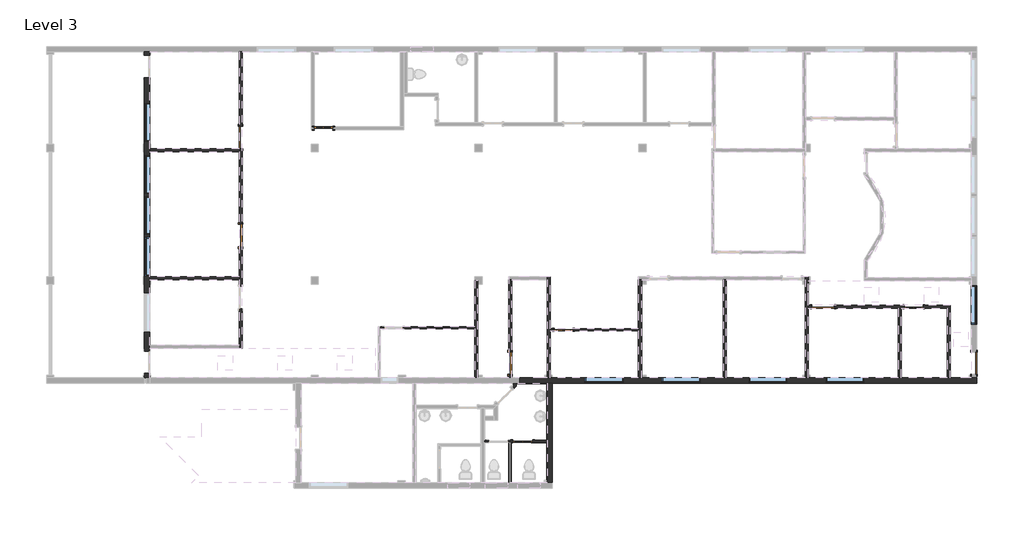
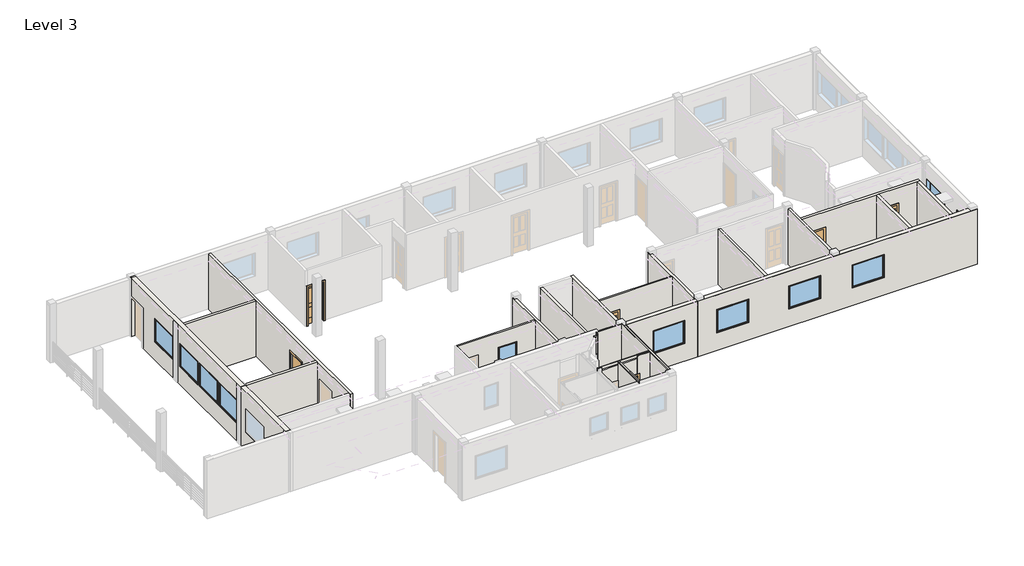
# One storey, part 2 of 4: 28 walls, 10 windows, 9 doors.
"""IFC4 building model written with IfcOpenShell, lengths in millimetres."""

from ifc_helpers import new_model, si_unit, frame, origin, origin_with_axes, place, context, project, spatial, polyline, outline, extrude, faceted_brep, transform, mapped, element, save
from components import door_43f271b1, door_0f3f7c0c, door_dce19e30, door_bfc1a142, door_dc1c1a0d, door_ea126e43, door_317ed896, window_74e4fc61, window_a0bf6c86

model = new_model("IFC4")

# Units and contexts
model_context = context("Model", 3, world=origin())
ifc_project = project(units=[si_unit("LENGTHUNIT", "METRE", prefix="MILLI")], contexts=[model_context])

# Site, building, storey
site = spatial("IfcSite", under=ifc_project)
building = spatial("IfcBuilding", under=site)
storey = spatial("IfcBuildingStorey", under=building, Name="Level 3", Elevation=0.0)

# Doors
placement = place(None, origin())
door_shape = door_43f271b1(model_context)
element("IfcDoor", 1, ObjectType="Single-Flush : 36\" x 80\" - D1", at=placement, inside=storey, context=model_context, shape_type="MappedRepresentation", body=[
    mapped(door_shape, transform((1001.1062633, -569.5558613, 0.0), x_axis=(-0.9999999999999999, 0.0, 0.0), y_axis=(0.0, -0.9999999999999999, 0.0), z_axis=(0.0, 0.0, 1.0))),
])
element("IfcDoor", 2, ObjectType="Single-Flush : 36\" x 80\" - D1", at=placement, inside=storey, context=model_context, shape_type="MappedRepresentation", body=[
    mapped(door_shape, transform((-22828.8562367, 2343.5066387, 0.0), x_axis=(0.0, -1.0, 0.0), y_axis=(1.0, 0.0, 0.0), z_axis=(0.0, 0.0, 1.0))),
])
element("IfcDoor", 3, ObjectType="Single-Flush : 36\" x 80\" - D1", at=placement, inside=storey, context=model_context, shape_type="MappedRepresentation", body=[
    mapped(door_shape, transform((-11806.8437367, -2880.9558613, 0.0), x_axis=(0.0, -1.0, 0.0), y_axis=(1.0, 0.0, 0.0), z_axis=(0.0, 0.0, 1.0))),
])
door_2_shape = door_0f3f7c0c(model_context)
element("IfcDoor", 4, ObjectType="Single-Flush : 36\" x 80\" - D1", at=placement, inside=storey, context=model_context, shape_type="MappedRepresentation", body=[
    mapped(door_2_shape, transform((-22828.8562367, 6356.7066387, 0.0), x_axis=(0.0, -1.0, 0.0), y_axis=(1.0, 0.0, 0.0), z_axis=(0.0, 0.0, 1.0))),
])
door_3_shape = door_dce19e30(model_context)
element("IfcDoor", 5, ObjectType="Single-Flush : 36\" x 80\" - D1", at=placement, inside=storey, context=model_context, shape_type="MappedRepresentation", body=[
    mapped(door_3_shape, transform((7179.6562633, -2880.9558613, 0.0), x_axis=(0.0, -0.9999999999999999, 0.0), y_axis=(0.9999999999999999, 0.0, 0.0), z_axis=(0.0, 0.0, 1.0))),
])
door_4_shape = door_bfc1a142(model_context)
element("IfcDoor", 6, ObjectType="Single-Glass 3 : 30\" x 80\" - D3", at=placement, inside=storey, context=model_context, shape_type="MappedRepresentation", body=[
    mapped(door_4_shape, transform((-19442.7187367, 6729.7691387, 0.0), x_axis=(-1.0, 0.0, 0.0), y_axis=(0.0, -1.0, 0.0), z_axis=(0.0, 0.0, 1.0))),
])
door_5_shape = door_dc1c1a0d(model_context)
element("IfcDoor", 7, ObjectType="Single-Glass 3 : 30\" x 80\" - D3", at=placement, inside=storey, context=model_context, shape_type="MappedRepresentation", body=[
    mapped(door_5_shape, transform((4707.9187633, -569.5558613, 0.0), x_axis=(-0.9999999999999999, 0.0, 0.0), y_axis=(0.0, -0.9999999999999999, 0.0), z_axis=(0.0, 0.0, 1.0))),
])
door_6_shape = door_ea126e43(model_context)
element("IfcDoor", 8, ObjectType="Single-Glass 3 : 30\" x 80\" - D3", at=placement, inside=storey, context=model_context, shape_type="MappedRepresentation", body=[
    mapped(door_6_shape, transform((-9616.0937367, -1515.7058613, 0.0), x_axis=(-1.0, 0.0, 0.0), y_axis=(0.0, -1.0, 0.0), z_axis=(0.0, 0.0, 1.0))),
])
door_7_shape = door_317ed896(model_context)
element("IfcDoor", 9, ObjectType="Single-Glass 3 : 32\" x 80\" - D2", at=placement, inside=storey, context=model_context, shape_type="MappedRepresentation", body=[
    mapped(door_7_shape, transform((-11286.1437367, -6071.8308613, 0.0), x_axis=(-1.0, 0.0, 0.0), y_axis=(0.0, -1.0, 0.0), z_axis=(0.0, 0.0, 1.0))),
])

# Walls
element("IfcWall", 10, ObjectType="0.5\" wall tiles-4\" x 6\"", at=placement, inside=storey, context=model_context, shape_type="Brep", body=[
    faceted_brep([(-11870.4677532, -6032.1433613, 2032.0), (-11870.4677532, -6032.1433613, 0.0), (-11692.4197202, -6032.1433613, 0.0), (-11692.4197202, -6032.1433613, 2032.0), (-10879.6197202, -6032.1433613, 2032.0), (-10879.6197202, -6032.1433613, 0.0), (-10290.7812367, -6032.1433613, 0.0), (-10290.7812367, -6032.1433613, 2895.6), (-10290.7812367, -6032.1433613, 3048.0), (-12860.9437367, -6032.1433613, 3048.0), (-12860.9437367, -6032.1433613, 2895.6), (-12860.9437367, -6032.1433613, 0.0), (-12683.2677532, -6032.1433613, 0.0), (-12683.2677532, -6032.1433613, 2032.0), (-11692.4197202, -6019.4433613, 0.0), (-11870.4677532, -6019.4433613, 0.0), (-11870.4677532, -6019.4433613, 2032.0), (-12683.2677532, -6019.4433613, 2032.0), (-12683.2677532, -6019.4433613, 0.0), (-12848.2437367, -6019.4433613, 0.0), (-12860.9437367, -6019.4433613, 0.0), (-12860.9437367, -6019.4433613, 3048.0), (-12848.2437367, -6019.4433613, 3048.0), (-10303.4812367, -6019.4433613, 3048.0), (-10290.7812367, -6019.4433613, 3048.0), (-10290.7812367, -6019.4433613, 0.0), (-10303.4812367, -6019.4433613, 0.0), (-10879.6197202, -6019.4433613, 0.0), (-10879.6197202, -6019.4433613, 2032.0), (-11692.4197202, -6019.4433613, 2032.0)], [[[0, 1, 2, 3, 4, 5, 6, 7, 8, 9, 10, 11, 12, 13]], [[14, 15, 16, 17, 18, 19, 20, 21, 22, 23, 24, 25, 26, 27, 28, 29]], [[2, 1, 15, 14]], [[27, 26, 25, 6, 5]], [[12, 11, 20, 19, 18]], [[9, 8, 24, 23, 22, 21]], [[11, 10, 9, 21, 20]], [[8, 7, 6, 25, 24]], [[3, 2, 14, 29]], [[4, 3, 29, 28]], [[5, 4, 28, 27]], [[16, 15, 1, 0]], [[17, 16, 0, 13]], [[18, 17, 13, 12]]]),
])
element("IfcWall", 11, ObjectType="0.5\" wall tiles-4\" x 6\"", at=placement, inside=storey, context=model_context, shape_type="Brep", body=[
    faceted_brep([(-10290.7812367, -6019.4433613, 0.0), (-10290.7812367, -3696.9308613, 0.0), (-10290.7812367, -3696.9308613, 3048.0), (-10290.7812367, -6019.4433613, 3048.0), (-10303.4812367, -6019.4433613, 0.0), (-10303.4812367, -6019.4433613, 3048.0), (-10303.4812367, -3709.6308613, 3048.0), (-10303.4812367, -3696.9308613, 3048.0), (-10303.4812367, -3696.9308613, 0.0), (-10303.4812367, -3709.6308613, 0.0)], [[[0, 1, 2, 3]], [[4, 5, 6, 7, 8, 9]], [[1, 0, 4, 9, 8]], [[3, 2, 7, 6, 5]], [[2, 1, 8, 7]], [[0, 3, 5, 4]]]),
])
element("IfcWall", 12, ObjectType="0.5\" wall tiles-4\" x 6\"", at=placement, inside=storey, context=model_context, shape_type="Brep", body=[
    faceted_brep([(-10303.4812367, -3696.9308613, 0.0), (-11560.7812367, -3696.9308613, 0.0), (-11560.7812367, -3696.9308613, 3048.0), (-10303.4812367, -3696.9308613, 3048.0), (-10303.4812367, -3709.6308613, 0.0), (-10303.4812367, -3709.6308613, 3048.0), (-11548.0812367, -3709.6308613, 3048.0), (-11560.7812367, -3709.6308613, 3048.0), (-11560.7812367, -3709.6308613, 0.0), (-11548.0812367, -3709.6308613, 0.0)], [[[0, 1, 2, 3]], [[4, 5, 6, 7, 8, 9]], [[1, 0, 4, 9, 8]], [[3, 2, 7, 6, 5]], [[2, 1, 8, 7]], [[0, 3, 5, 4]]]),
])
element("IfcWall", 13, ObjectType="0.5\" wall tiles-4\" x 6\"", at=placement, inside=storey, context=model_context, shape_type="Brep", body=[
    faceted_brep([(-11560.7812367, -3709.6308613, 0.0), (-11560.7812367, -3811.4758585, 0.0), (-11560.7812367, -3829.4363708, 0.0), (-11560.7812367, -3829.4363708, 3048.0), (-11560.7812367, -3811.4758585, 3048.0), (-11560.7812367, -3709.6308613, 3048.0), (-11548.0812367, -3709.6308613, 0.0), (-11548.0812367, -3709.6308613, 3048.0), (-11548.0812367, -3816.7363708, 3048.0), (-11548.0812367, -3816.7363708, 0.0)], [[[0, 1, 2, 3, 4, 5]], [[6, 7, 8, 9]], [[2, 1, 0, 6, 9]], [[5, 4, 3, 8, 7]], [[3, 2, 9, 8]], [[0, 5, 7, 6]]]),
])
element("IfcWall", 14, ObjectType="0.5\" wall tiles-4\" x 6\"", at=placement, inside=storey, context=model_context, shape_type="SweptSolid", body=[
    extrude(outline(polyline([(-11709.4708503, -3960.1654721), (-11560.7812367, -3811.4758585), (-11560.7812367, -3829.4363708), (-11700.4905942, -3969.1457283), (-11709.4708503, -3960.1654721)])), origin_with_axes(), (0.0, 0.0, 1.0), 3048.0),
])
element("IfcWall", 15, ObjectType="0.5\" wall tiles-4\" x 6\"", at=placement, inside=storey, context=model_context, shape_type="SweptSolid", body=[
    extrude(outline(polyline([(-11848.1187367, -6113.1058613), (-11848.1187367, -7762.5183613), (-11860.8187367, -7762.5183613), (-11860.8187367, -6113.1058613), (-11848.1187367, -6113.1058613)])), origin_with_axes(), (0.0, 0.0, 1.0), 3048.0),
])
element("IfcWall", 16, ObjectType="0.5\" wall tiles-4\" x 6\"", at=placement, inside=storey, context=model_context, shape_type="Brep", body=[
    faceted_brep([(-11768.7437367, -6113.1058613, 0.0), (-11768.7437367, -7775.2183613, 0.0), (-11768.7437367, -7775.2183613, 3048.0), (-11768.7437367, -6113.1058613, 3048.0), (-11756.0437367, -6113.1058613, 0.0), (-11756.0437367, -6113.1058613, 3048.0), (-11756.0437367, -7762.5183613, 3048.0), (-11756.0437367, -7775.2183613, 3048.0), (-11756.0437367, -7775.2183613, 0.0), (-11756.0437367, -7762.5183613, 0.0)], [[[0, 1, 2, 3]], [[4, 5, 6, 7, 8, 9]], [[1, 0, 4, 9, 8]], [[3, 2, 7, 6, 5]], [[0, 3, 5, 4]], [[2, 1, 8, 7]]]),
])
element("IfcWall", 17, ObjectType="0.5\" wall tiles-4\" x 6\"", at=placement, inside=storey, context=model_context, shape_type="Brep", body=[
    faceted_brep([(-10290.7812367, -7664.0933613, 0.0), (-10290.7812367, -6111.5183613, 0.0), (-10290.7812367, -6111.5183613, 3048.0), (-10290.7812367, -7664.0933613, 3048.0), (-10303.4812367, -7664.0933613, 0.0), (-10303.4812367, -7664.0933613, 3048.0), (-10303.4812367, -6124.2183613, 3048.0), (-10303.4812367, -6111.5183613, 3048.0), (-10303.4812367, -6111.5183613, 0.0), (-10303.4812367, -6124.2183613, 0.0)], [[[0, 1, 2, 3]], [[4, 5, 6, 7, 8, 9]], [[1, 0, 4, 9, 8]], [[3, 2, 7, 6, 5]], [[2, 1, 8, 7]], [[0, 3, 5, 4]]]),
])
element("IfcWall", 18, ObjectType="0.5\" wall tiles-4\" x 6\"", at=placement, inside=storey, context=model_context, shape_type="SweptSolid", body=[
    extrude(outline(polyline([(-10929.1337127, -6111.5183613), (-10303.4812367, -6111.5183613), (-10303.4812367, -6124.2183613), (-10929.1337127, -6124.2183613), (-10929.1337127, -6111.5183613)])), origin_with_axes(), (0.0, 0.0, 1.0), 3048.0),
])
element("IfcWall", 19, ObjectType="Generic - 8\" Masonry existing", at=placement, inside=storey, context=model_context, shape_type="Brep", body=[
    faceted_brep([(-26543.6062367, -3477.8558613, 0.0), (-26686.4812367, -3477.8558613, 0.0), (-26762.6812367, -3477.8558613, 0.0), (-26762.6812367, -3296.616278, 0.0), (-26543.6062367, -3296.616278, 0.0), (-26762.6812367, 9857.1441387, 0.0), (-26543.6062367, 9857.1441387, 0.0), (-26543.6062367, 9717.4441387, 0.0), (-26762.6812367, 9717.4441387, 0.0), (-26543.6062367, -2382.216278, 0.0), (-26762.6812367, -2382.216278, 0.0), (-26762.6812367, 8803.0441387, 0.0), (-26543.6062367, 8803.0441387, 0.0), (-26543.6062367, 5899.5066387, 0.0), (-26543.6062367, 5775.6816387, 0.0), (-26543.6062367, 667.1066387, 0.0), (-26543.6062367, 543.2816387, 0.0), (-26543.6062367, -2145.4141947, 0.0), (-26543.6062367, -2269.2391947, 0.0), (-26762.6812367, 9857.1441387, 3048.0), (-26762.6812367, -3477.8558613, 3048.0), (-26686.4812367, -3477.8558613, 3048.0), (-26543.6062367, -3477.8558613, 3048.0), (-26543.6062367, 9857.1441387, 3048.0), (-26762.6812367, 9717.4441387, 2032.0), (-26762.6812367, 8803.0441387, 2032.0), (-26762.6812367, -2382.216278, 2032.0), (-26762.6812367, -3296.616278, 2032.0), (-26762.6812367, -23.4558613, 914.4), (-26762.6812367, -23.4558613, 2133.6), (-26762.6812367, -1598.2558613, 2133.6), (-26762.6812367, -1598.2558613, 914.4), (-26762.6812367, 2265.7191387, 2133.6), (-26762.6812367, 690.9191387, 2133.6), (-26762.6812367, 690.9191387, 914.4), (-26762.6812367, 2265.7191387, 914.4), (-26762.6812367, 3951.6441387, 2133.6), (-26762.6812367, 2376.8441387, 2133.6), (-26762.6812367, 2376.8441387, 914.4), (-26762.6812367, 3951.6441387, 914.4), (-26762.6812367, 5628.0441387, 2133.6), (-26762.6812367, 4053.2441387, 2133.6), (-26762.6812367, 4053.2441387, 914.4), (-26762.6812367, 5628.0441387, 914.4), (-26762.6812367, 7761.6441387, 2133.6), (-26762.6812367, 6186.8441387, 2133.6), (-26762.6812367, 6186.8441387, 914.4), (-26762.6812367, 7761.6441387, 914.4), (-26543.6062367, -3296.616278, 2032.0), (-26543.6062367, -2382.216278, 2032.0), (-26543.6062367, 8803.0441387, 2032.0), (-26543.6062367, 9717.4441387, 2032.0), (-26543.6062367, -23.4558613, 2133.6), (-26543.6062367, -23.4558613, 914.4), (-26543.6062367, -1598.2558613, 914.4), (-26543.6062367, -1598.2558613, 2133.6), (-26543.6062367, 2265.7191387, 2133.6), (-26543.6062367, 2265.7191387, 914.4), (-26543.6062367, 690.9191387, 914.4), (-26543.6062367, 690.9191387, 2133.6), (-26543.6062367, 3951.6441387, 2133.6), (-26543.6062367, 3951.6441387, 914.4), (-26543.6062367, 2376.8441387, 914.4), (-26543.6062367, 2376.8441387, 2133.6), (-26543.6062367, 5628.0441387, 2133.6), (-26543.6062367, 5628.0441387, 914.4), (-26543.6062367, 4053.2441387, 914.4), (-26543.6062367, 4053.2441387, 2133.6), (-26543.6062367, 7761.6441387, 2133.6), (-26543.6062367, 7761.6441387, 914.4), (-26543.6062367, 6186.8441387, 914.4), (-26543.6062367, 6186.8441387, 2133.6)], [[[0, 1, 2, 3, 4]], [[5, 6, 7, 8]], [[9, 10, 11, 12, 13, 14, 15, 16, 17, 18]], [[19, 20, 21, 22, 23]], [[20, 19, 5, 8, 24, 25, 11, 10, 26, 27, 3, 2], [28, 29, 30, 31], [32, 33, 34, 35], [36, 37, 38, 39], [40, 41, 42, 43], [44, 45, 46, 47]], [[23, 22, 0, 4, 48, 49, 9, 18, 17, 16, 15, 14, 13, 12, 50, 51, 7, 6], [52, 53, 54, 55], [56, 57, 58, 59], [60, 61, 62, 63], [64, 65, 66, 67], [68, 69, 70, 71]], [[20, 2, 1, 0, 22, 21]], [[5, 19, 23, 6]], [[48, 4, 3, 27]], [[49, 48, 27, 26]], [[9, 49, 26, 10]], [[24, 8, 7, 51]], [[25, 24, 51, 50]], [[11, 25, 50, 12]], [[52, 29, 28, 53]], [[53, 28, 31, 54]], [[30, 55, 54, 31]], [[29, 52, 55, 30]], [[57, 56, 32, 35]], [[58, 57, 35, 34]], [[59, 58, 34, 33]], [[56, 59, 33, 32]], [[61, 60, 36, 39]], [[62, 61, 39, 38]], [[63, 62, 38, 37]], [[60, 63, 37, 36]], [[65, 64, 40, 43]], [[66, 65, 43, 42]], [[67, 66, 42, 41]], [[64, 67, 41, 40]], [[69, 68, 44, 47]], [[70, 69, 47, 46]], [[71, 70, 46, 45]], [[68, 71, 45, 44]]]),
])
element("IfcWall", 20, ObjectType="Generic - 8\" Masonry existing", at=placement, inside=storey, context=model_context, shape_type="Brep", body=[
    faceted_brep([(-11425.8437367, -3696.9308613, 0.0), (-11425.8437367, -3696.9308613, 2895.6), (-11425.8437367, -3684.2308613, 2895.6), (-11425.8437367, -3477.8558613, 2895.6), (-11425.8437367, -3477.8558613, 0.0), (7289.1937633, -3696.9308613, 0.0), (-10071.7062367, -3696.9308613, 0.0), (-10290.7812367, -3696.9308613, 0.0), (-10281.2562367, -3477.8558613, 0.0), (-10157.4312367, -3477.8558613, 0.0), (-6552.2187367, -3477.8558613, 0.0), (-6428.3937367, -3477.8558613, 0.0), (-3080.3562367, -3477.8558613, 0.0), (-2956.5312367, -3477.8558613, 0.0), (259.7437633, -3477.8558613, 0.0), (383.5687633, -3477.8558613, 0.0), (4068.1562633, -3477.8558613, 0.0), (4191.9812633, -3477.8558613, 0.0), (6079.5187633, -3477.8558613, 0.0), (6203.3437633, -3477.8558613, 0.0), (7070.1187633, -3477.8558613, 0.0), (7289.1937633, -3477.8558613, 0.0), (7289.1937633, -3696.9308613, 2895.6), (7276.4937633, -3696.9308613, 2895.6), (-10071.7062367, -3696.9308613, 2895.6), (-10290.7812367, -3696.9308613, 2895.6), (-8746.1437367, -3696.9308613, 2133.6), (-7171.3437367, -3696.9308613, 2133.6), (-7171.3437367, -3696.9308613, 914.4), (-8746.1437367, -3696.9308613, 914.4), (-5596.5437367, -3696.9308613, 2133.6), (-4021.7437367, -3696.9308613, 2133.6), (-4021.7437367, -3696.9308613, 914.4), (-5596.5437367, -3696.9308613, 914.4), (1109.0562633, -3696.9308613, 2133.6), (2683.8562633, -3696.9308613, 2133.6), (2683.8562633, -3696.9308613, 914.4), (1109.0562633, -3696.9308613, 914.4), (-2040.5437367, -3696.9308613, 2133.6), (-465.7437367, -3696.9308613, 2133.6), (-465.7437367, -3696.9308613, 914.4), (-2040.5437367, -3696.9308613, 914.4), (-10281.2562367, -3477.8558613, 2895.6), (-10157.4312367, -3477.8558613, 2895.6), (-6552.2187367, -3477.8558613, 2895.6), (-6428.3937367, -3477.8558613, 2895.6), (-3080.3562367, -3477.8558613, 2895.6), (-2956.5312367, -3477.8558613, 2895.6), (259.7437633, -3477.8558613, 2895.6), (383.5687633, -3477.8558613, 2895.6), (4068.1562633, -3477.8558613, 2895.6), (4191.9812633, -3477.8558613, 2895.6), (6079.5187633, -3477.8558613, 2895.6), (6203.3437633, -3477.8558613, 2895.6), (7070.1187633, -3477.8558613, 2895.6), (7276.4937633, -3477.8558613, 2895.6), (7289.1937633, -3477.8558613, 2895.6), (-8746.1437367, -3477.8558613, 2133.6), (-8746.1437367, -3477.8558613, 914.4), (-7171.3437367, -3477.8558613, 914.4), (-7171.3437367, -3477.8558613, 2133.6), (-5596.5437367, -3477.8558613, 2133.6), (-5596.5437367, -3477.8558613, 914.4), (-4021.7437367, -3477.8558613, 914.4), (-4021.7437367, -3477.8558613, 2133.6), (1109.0562633, -3477.8558613, 2133.6), (1109.0562633, -3477.8558613, 914.4), (2683.8562633, -3477.8558613, 914.4), (2683.8562633, -3477.8558613, 2133.6), (-2040.5437367, -3477.8558613, 2133.6), (-2040.5437367, -3477.8558613, 914.4), (-465.7437367, -3477.8558613, 914.4), (-465.7437367, -3477.8558613, 2133.6), (7289.1937633, -3684.2308613, 2895.6), (7276.4937633, -3684.2308613, 2895.6), (-10084.4062367, -3684.2308613, 2895.6)], [[[0, 1, 2, 3, 4]], [[5, 6, 7, 0, 4, 8, 9, 10, 11, 12, 13, 14, 15, 16, 17, 18, 19, 20, 21]], [[0, 7, 6, 5, 22, 23, 24, 25, 1], [26, 27, 28, 29], [30, 31, 32, 33], [34, 35, 36, 37], [38, 39, 40, 41]], [[4, 3, 42, 43, 44, 45, 46, 47, 48, 49, 50, 51, 52, 53, 54, 55, 56, 21, 20, 19, 18, 17, 16, 15, 14, 13, 12, 11, 10, 9, 8], [57, 58, 59, 60], [61, 62, 63, 64], [65, 66, 67, 68], [69, 70, 71, 72]], [[22, 5, 21, 56, 73]], [[1, 25, 24, 23, 74, 75, 2]], [[73, 56, 55, 74]], [[23, 22, 73, 74]], [[74, 55, 54, 53, 52, 51, 50, 49, 48, 47, 46, 45, 44, 43, 42, 3, 2, 75]], [[58, 57, 26, 29]], [[59, 58, 29, 28]], [[60, 59, 28, 27]], [[57, 60, 27, 26]], [[62, 61, 30, 33]], [[63, 62, 33, 32]], [[64, 63, 32, 31]], [[61, 64, 31, 30]], [[66, 65, 34, 37]], [[67, 66, 37, 36]], [[68, 67, 36, 35]], [[65, 68, 35, 34]], [[70, 69, 38, 41]], [[71, 70, 41, 40]], [[72, 71, 40, 39]], [[69, 72, 39, 38]]]),
])
element("IfcWall", 21, ObjectType="Generic - 8\" Masonry existing", at=placement, inside=storey, context=model_context, shape_type="Brep", body=[
    faceted_brep([(-10290.7812367, -3696.9308613, 0.0), (-10290.7812367, -6032.1433613, 0.0), (-10290.7812367, -6111.5183613, 0.0), (-10290.7812367, -7775.2183613, 0.0), (-10290.7812367, -7775.2183613, 2895.6), (-10290.7812367, -6111.5183613, 2895.6), (-10290.7812367, -6032.1433613, 2895.6), (-10290.7812367, -3696.9308613, 2895.6), (-10071.7062367, -3696.9308613, 0.0), (-10071.7062367, -3696.9308613, 2895.6), (-10071.7062367, -7775.2183613, 2895.6), (-10071.7062367, -7775.2183613, 0.0), (-10084.4062367, -7775.2183613, 2895.6), (-10084.4062367, -3696.9308613, 2895.6)], [[[0, 1, 2, 3, 4, 5, 6, 7]], [[8, 9, 10, 11]], [[3, 2, 1, 0, 8, 11]], [[4, 3, 11, 10, 12]], [[0, 7, 13, 9, 8]], [[12, 10, 9, 13]], [[7, 6, 5, 4, 12, 13]]]),
])
element("IfcWall", 22, ObjectType="Interior - 3 1/8\" Partition (1-hr)", at=placement, inside=storey, context=model_context, shape_type="SweptSolid", body=[
    extrude(outline(polyline([(0.0, -10157.4312367), (0.0, -9996.9697202), (2032.0, -9996.9697202), (2032.0, -9234.9697202), (0.0, -9234.9697202), (0.0, -6552.2187367), (2895.6, -6552.2187367), (2895.6, -10157.4312367), (0.0, -10157.4312367)])), frame((0.0, -1555.3933613, 0.0), z_axis=(0.0, 1.0, 0.0), x_axis=(0.0, 0.0, 1.0)), (0.0, 0.0, 1.0), 79.375),
])
element("IfcWall", 23, ObjectType="Interior - 3 1/8\" Partition (1-hr)", at=placement, inside=storey, context=model_context, shape_type="SweptSolid", body=[
    extrude(outline(polyline([(0.0, -17121.7937367), (0.0, -16948.6322202), (2032.0, -16948.6322202), (2032.0, -16186.6322202), (0.0, -16186.6322202), (0.0, -13257.8187367), (2895.6, -13257.8187367), (2895.6, -17121.7937367), (0.0, -17121.7937367)]), holes=[polyline([(2133.6, -15094.5562367), (2133.6, -14180.1562367), (914.4, -14180.1562367), (914.4, -15094.5562367), (2133.6, -15094.5562367)])]), frame((0.0, -1463.3183613, 0.0), z_axis=(0.0, 1.0, 0.0), x_axis=(0.0, 0.0, 1.0)), (0.0, 0.0, 1.0), 79.375),
])
element("IfcWall", 24, ObjectType="Interior - 3 1/8\" Partition (1-hr)", at=placement, inside=storey, context=model_context, shape_type="Brep", body=[
    faceted_brep([(-11870.4677532, -6111.5183613, 2032.0), (-11870.4677532, -6111.5183613, 0.0), (-11848.1187367, -6111.5183613, 0.0), (-11768.7437367, -6111.5183613, 0.0), (-11692.4197202, -6111.5183613, 0.0), (-11692.4197202, -6111.5183613, 2032.0), (-10879.6197202, -6111.5183613, 2032.0), (-10879.6197202, -6111.5183613, 0.0), (-10290.7812367, -6111.5183613, 0.0), (-10290.7812367, -6111.5183613, 2895.6), (-11768.7437367, -6111.5183613, 2895.6), (-11848.1187367, -6111.5183613, 2895.6), (-12860.9437367, -6111.5183613, 2895.6), (-12860.9437367, -6111.5183613, 0.0), (-12683.2677532, -6111.5183613, 0.0), (-12683.2677532, -6111.5183613, 2032.0), (-11692.4197202, -6032.1433613, 0.0), (-11870.4677532, -6032.1433613, 0.0), (-11870.4677532, -6032.1433613, 2032.0), (-12683.2677532, -6032.1433613, 2032.0), (-12683.2677532, -6032.1433613, 0.0), (-12860.9437367, -6032.1433613, 0.0), (-12860.9437367, -6032.1433613, 2895.6), (-10290.7812367, -6032.1433613, 2895.6), (-10290.7812367, -6032.1433613, 0.0), (-10879.6197202, -6032.1433613, 0.0), (-10879.6197202, -6032.1433613, 2032.0), (-11692.4197202, -6032.1433613, 2032.0)], [[[0, 1, 2, 3, 4, 5, 6, 7, 8, 9, 10, 11, 12, 13, 14, 15]], [[16, 17, 18, 19, 20, 21, 22, 23, 24, 25, 26, 27]], [[4, 3, 2, 1, 17, 16]], [[25, 24, 8, 7]], [[14, 13, 21, 20]], [[12, 11, 10, 9, 23, 22]], [[9, 8, 24, 23]], [[13, 12, 22, 21]], [[5, 4, 16, 27]], [[6, 5, 27, 26]], [[7, 6, 26, 25]], [[18, 17, 1, 0]], [[19, 18, 0, 15]], [[20, 19, 15, 14]]]),
])
element("IfcWall", 25, ObjectType="Interior - 5 1/2\" Partition (1-hr)", at=placement, inside=storey, context=model_context, shape_type="Brep", body=[
    faceted_brep([(-22890.7687367, 262.2941387, 0.0), (-22890.7687367, 543.2816387, 0.0), (-22890.7687367, 667.1066387, 0.0), (-22890.7687367, 1886.3066387, 0.0), (-22766.9437367, 1886.3066387, 0.0), (-22766.9437367, 262.2941387, 0.0), (-22890.7687367, 6813.9066387, 0.0), (-22890.7687367, 9857.1441387, 0.0), (-22766.9437367, 9857.1441387, 0.0), (-22766.9437367, 6813.9066387, 0.0), (-22766.9437367, -652.1058613, 0.0), (-22766.9437367, -2269.2391947, 0.0), (-22890.7687367, -2269.2391947, 0.0), (-22890.7687367, -2145.4141947, 0.0), (-22890.7687367, -652.1058613, 0.0), (-22890.7687367, 2800.7066387, 0.0), (-22890.7687367, 5775.6816387, 0.0), (-22890.7687367, 5899.5066387, 0.0), (-22766.9437367, 5899.5066387, 0.0), (-22766.9437367, 2800.7066387, 0.0), (-22890.7687367, 9857.1441387, 2895.6), (-22890.7687367, 5899.5066387, 2895.6), (-22890.7687367, 5775.6816387, 2895.6), (-22890.7687367, 667.1066387, 2895.6), (-22890.7687367, 543.2816387, 2895.6), (-22890.7687367, -2145.4141947, 2895.6), (-22890.7687367, -2269.2391947, 2895.6), (-22766.9437367, -2269.2391947, 2895.6), (-22766.9437367, 9857.1441387, 2895.6), (-22890.7687367, 1886.3066387, 2032.0), (-22890.7687367, 262.2941387, 2032.0), (-22890.7687367, -652.1058613, 2032.0), (-22890.7687367, 6813.9066387, 2032.0), (-22890.7687367, 5899.5066387, 2032.0), (-22890.7687367, 2800.7066387, 2032.0), (-22766.9437367, 1886.3066387, 2032.0), (-22766.9437367, 2800.7066387, 2032.0), (-22766.9437367, 5899.5066387, 2032.0), (-22766.9437367, 6813.9066387, 2032.0), (-22766.9437367, -652.1058613, 2032.0), (-22766.9437367, 262.2941387, 2032.0)], [[[0, 1, 2, 3, 4, 5]], [[6, 7, 8, 9]], [[10, 11, 12, 13, 14]], [[15, 16, 17, 18, 19]], [[20, 21, 22, 23, 24, 25, 26, 27, 28]], [[29, 3, 2, 1, 0, 30, 31, 14, 13, 12, 26, 25, 24, 23, 22, 21, 20, 7, 6, 32, 33, 17, 16, 15, 34]], [[5, 4, 35, 36, 19, 18, 37, 38, 9, 8, 28, 27, 11, 10, 39, 40]], [[7, 20, 28, 8]], [[26, 12, 11, 27]], [[37, 18, 17, 33]], [[38, 37, 33, 32]], [[9, 38, 32, 6]], [[30, 0, 5, 40]], [[31, 30, 40, 39]], [[14, 31, 39, 10]], [[35, 4, 3, 29]], [[36, 35, 29, 34]], [[19, 36, 34, 15]]]),
])
element("IfcWall", 26, ObjectType="Interior - 5 1/2\" Partition (1-hr)", at=placement, inside=storey, context=model_context, shape_type="Brep", body=[
    faceted_brep([(-26543.6062367, 5775.6816387, 0.0), (-22890.7687367, 5775.6816387, 0.0), (-22890.7687367, 5775.6816387, 2895.6), (-26543.6062367, 5775.6816387, 2895.6), (-26543.6062367, 5899.5066387, 0.0), (-26543.6062367, 5899.5066387, 2895.6), (-22890.7687367, 5899.5066387, 2895.6), (-22890.7687367, 5899.5066387, 2032.0), (-22890.7687367, 5899.5066387, 0.0)], [[[0, 1, 2, 3]], [[4, 5, 6, 7, 8]], [[1, 0, 4, 8]], [[3, 2, 6, 5]], [[2, 1, 8, 7, 6]], [[0, 3, 5, 4]]]),
])
element("IfcWall", 27, ObjectType="Interior - 5 1/2\" Partition (1-hr)", at=placement, inside=storey, context=model_context, shape_type="SweptSolid", body=[
    extrude(outline(polyline([(-22890.7687367, 543.2816387), (-26543.6062367, 543.2816387), (-26543.6062367, 667.1066387), (-22890.7687367, 667.1066387), (-22890.7687367, 543.2816387)])), origin_with_axes(), (0.0, 0.0, 1.0), 2895.6),
])
element("IfcWall", 28, ObjectType="Interior - 5 1/2\" Partition (1-hr)", at=placement, inside=storey, context=model_context, shape_type="Brep", body=[
    faceted_brep([(383.5687633, -3477.8558613, 0.0), (383.5687633, -631.4683613, 0.0), (383.5687633, -507.6433613, 0.0), (383.5687633, 667.1066387, 0.0), (383.5687633, 667.1066387, 2895.6), (383.5687633, -507.6433613, 2895.6), (383.5687633, -631.4683613, 2895.6), (383.5687633, -3477.8558613, 2895.6), (259.7437633, -3477.8558613, 0.0), (259.7437633, -3477.8558613, 2895.6), (259.7437633, 543.2816387, 2895.6), (259.7437633, 667.1066387, 2895.6), (259.7437633, 667.1066387, 0.0), (259.7437633, 543.2816387, 0.0)], [[[0, 1, 2, 3, 4, 5, 6, 7]], [[8, 9, 10, 11, 12, 13]], [[3, 2, 1, 0, 8, 13, 12]], [[7, 6, 5, 4, 11, 10, 9]], [[4, 3, 12, 11]], [[0, 7, 9, 8]]]),
])
element("IfcWall", 29, ObjectType="Interior - 5 1/2\" Partition (1-hr)", at=placement, inside=storey, context=model_context, shape_type="SweptSolid", body=[
    extrude(outline(polyline([(-3080.3562367, -3477.8558613), (-3080.3562367, 543.2816387), (-2956.5312367, 543.2816387), (-2956.5312367, -3477.8558613), (-3080.3562367, -3477.8558613)])), origin_with_axes(), (0.0, 0.0, 1.0), 2895.6),
])
element("IfcWall", 30, ObjectType="Interior - 5 1/2\" Partition (1-hr)", at=placement, inside=storey, context=model_context, shape_type="Brep", body=[
    faceted_brep([(-6428.3937367, -3477.8558613, 0.0), (-6428.3937367, 543.2816387, 0.0), (-6428.3937367, 543.2816387, 2895.6), (-6428.3937367, -3477.8558613, 2895.6), (-6552.2187367, -3477.8558613, 0.0), (-6552.2187367, -3477.8558613, 2895.6), (-6552.2187367, -1555.3933613, 2895.6), (-6552.2187367, -1476.0183613, 2895.6), (-6552.2187367, 543.2816387, 2895.6), (-6552.2187367, 543.2816387, 0.0), (-6552.2187367, -1476.0183613, 0.0), (-6552.2187367, -1555.3933613, 0.0)], [[[0, 1, 2, 3]], [[4, 5, 6, 7, 8, 9, 10, 11]], [[1, 0, 4, 11, 10, 9]], [[3, 2, 8, 7, 6, 5]], [[2, 1, 9, 8]], [[0, 3, 5, 4]]]),
])
element("IfcWall", 31, ObjectType="Interior - 5 1/2\" Partition (1-hr)", at=placement, inside=storey, context=model_context, shape_type="Brep", body=[
    faceted_brep([(-10281.2562367, 667.1066387, 0.0), (-10281.2562367, 543.2816387, 0.0), (-10281.2562367, -3477.8558613, 0.0), (-10281.2562367, -3477.8558613, 2895.6), (-10281.2562367, 543.2816387, 2895.6), (-10281.2562367, 667.1066387, 2895.6), (-10157.4312367, 667.1066387, 0.0), (-10157.4312367, 667.1066387, 2895.6), (-10157.4312367, -1476.0183613, 2895.6), (-10157.4312367, -1555.3933613, 2895.6), (-10157.4312367, -3477.8558613, 2895.6), (-10157.4312367, -3477.8558613, 0.0), (-10157.4312367, -1555.3933613, 0.0), (-10157.4312367, -1476.0183613, 0.0)], [[[0, 1, 2, 3, 4, 5]], [[6, 7, 8, 9, 10, 11, 12, 13]], [[2, 1, 0, 6, 13, 12, 11]], [[5, 4, 3, 10, 9, 8, 7]], [[0, 5, 7, 6]], [[3, 2, 11, 10]]]),
])
element("IfcWall", 32, ObjectType="Interior - 5 1/2\" Partition (1-hr)", at=placement, inside=storey, context=model_context, shape_type="Brep", body=[
    faceted_brep([(-13257.8187367, 497.2441387, 0.0), (-13257.8187367, -1383.9433613, 0.0), (-13257.8187367, -1463.3183613, 0.0), (-13257.8187367, -3477.8558613, 0.0), (-13257.8187367, -3477.8558613, 2895.6), (-13257.8187367, -1463.3183613, 2895.6), (-13257.8187367, -1383.9433613, 2895.6), (-13257.8187367, 497.2441387, 2895.6), (-13133.9937367, 497.2441387, 0.0), (-13133.9937367, 497.2441387, 2895.6), (-13133.9937367, -3477.8558613, 2895.6), (-13133.9937367, -3477.8558613, 0.0)], [[[0, 1, 2, 3, 4, 5, 6, 7]], [[8, 9, 10, 11]], [[3, 2, 1, 0, 8, 11]], [[7, 6, 5, 4, 10, 9]], [[0, 7, 9, 8]], [[4, 3, 11, 10]]]),
])
element("IfcWall", 33, ObjectType="Interior - 5 1/2\" Partition (1-hr)", at=placement, inside=storey, context=model_context, shape_type="Brep", body=[
    faceted_brep([(4327.0427798, -507.6433613, 2032.0), (4327.0427798, -507.6433613, 0.0), (1458.3062633, -507.6433613, 0.0), (1458.3062633, -507.6433613, 2032.0), (543.9062633, -507.6433613, 2032.0), (543.9062633, -507.6433613, 0.0), (383.5687633, -507.6433613, 0.0), (383.5687633, -507.6433613, 2895.6), (6203.3437633, -507.6433613, 2895.6), (6203.3437633, -507.6433613, 0.0), (5089.0427798, -507.6433613, 0.0), (5089.0427798, -507.6433613, 2032.0), (1458.3062633, -631.4683613, 0.0), (4068.1562633, -631.4683613, 0.0), (4191.9812633, -631.4683613, 0.0), (4327.0427798, -631.4683613, 0.0), (4327.0427798, -631.4683613, 2032.0), (5089.0427798, -631.4683613, 2032.0), (5089.0427798, -631.4683613, 0.0), (6079.5187633, -631.4683613, 0.0), (6203.3437633, -631.4683613, 0.0), (6203.3437633, -631.4683613, 2895.6), (6079.5187633, -631.4683613, 2895.6), (4191.9812633, -631.4683613, 2895.6), (4068.1562633, -631.4683613, 2895.6), (383.5687633, -631.4683613, 2895.6), (383.5687633, -631.4683613, 0.0), (543.9062633, -631.4683613, 0.0), (543.9062633, -631.4683613, 2032.0), (1458.3062633, -631.4683613, 2032.0)], [[[0, 1, 2, 3, 4, 5, 6, 7, 8, 9, 10, 11]], [[12, 13, 14, 15, 16, 17, 18, 19, 20, 21, 22, 23, 24, 25, 26, 27, 28, 29]], [[6, 5, 27, 26]], [[2, 1, 15, 14, 13, 12]], [[10, 9, 20, 19, 18]], [[8, 7, 25, 24, 23, 22, 21]], [[9, 8, 21, 20]], [[7, 6, 26, 25]], [[28, 27, 5, 4]], [[29, 28, 4, 3]], [[12, 29, 3, 2]], [[16, 15, 1, 0]], [[17, 16, 0, 11]], [[18, 17, 11, 10]]]),
])
element("IfcWall", 34, ObjectType="Interior - 5 1/2\" Partition (1-hr)", at=placement, inside=storey, context=model_context, shape_type="SweptSolid", body=[
    extrude(outline(polyline([(-3338.1558613, 2032.0), (-3338.1558613, 0.0), (-3477.8558613, 0.0), (-3477.8558613, 2895.6), (543.2816387, 2895.6), (543.2816387, 0.0), (-2423.7558613, 0.0), (-2423.7558613, 2032.0), (-3338.1558613, 2032.0)])), frame((-11868.7562367, 0.0, 0.0), z_axis=(1.0, 0.0, 0.0), x_axis=(0.0, 1.0, 0.0)), (0.0, 0.0, 1.0), 123.825),
])
element("IfcWall", 35, ObjectType="Interior - 5 1/2\" Partition (1-hr)", at=placement, inside=storey, context=model_context, shape_type="SweptSolid", body=[
    extrude(outline(polyline([(4068.1562633, -3477.8558613), (4068.1562633, -631.4683613), (4191.9812633, -631.4683613), (4191.9812633, -3477.8558613), (4068.1562633, -3477.8558613)])), origin_with_axes(), (0.0, 0.0, 1.0), 2895.6),
])
element("IfcWall", 36, ObjectType="Interior - 5 1/2\" Partition (1-hr)", at=placement, inside=storey, context=model_context, shape_type="SweptSolid", body=[
    extrude(outline(polyline([(6079.5187633, -3477.8558613), (6079.5187633, -631.4683613), (6203.3437633, -631.4683613), (6203.3437633, -3477.8558613), (6079.5187633, -3477.8558613)])), origin_with_axes(), (0.0, 0.0, 1.0), 2895.6),
])
element("IfcWall", 37, ObjectType="Interior - 5 1/2\" Partition (1-hr)", at=placement, inside=storey, context=model_context, shape_type="Brep", body=[
    faceted_brep([(-11684.6062367, -3696.9308613, 0.0), (-11684.6062367, -3760.1858642, 0.0), (-11684.6062367, -3935.3008585, 0.0), (-11684.6062367, -3935.3008585, 2895.6), (-11684.6062367, -3760.1858642, 2895.6), (-11684.6062367, -3696.9308613, 2895.6), (-11560.7812367, -3696.9308613, 0.0), (-11560.7812367, -3696.9308613, 2895.6), (-11560.7812367, -3811.4758585, 2895.6), (-11560.7812367, -3811.4758585, 0.0)], [[[0, 1, 2, 3, 4, 5]], [[6, 7, 8, 9]], [[2, 1, 0, 6, 9]], [[5, 4, 3, 8, 7]], [[0, 5, 7, 6]], [[3, 2, 9, 8]]]),
])

# Windows
window_shape = window_74e4fc61(model_context)
element("IfcWindow", 38, ObjectType="Fixed : 36\" x 48\" - W2", at=placement, inside=storey, context=model_context, shape_type="MappedRepresentation", body=[
    mapped(window_shape, transform((-14675.4562367, -1423.6308613, 0.0), x_axis=(-1.0, 0.0, 0.0), y_axis=(0.0, -1.0, 0.0), z_axis=(0.0, 0.0, 1.0))),
])
window_2_shape = window_a0bf6c86(model_context)
element("IfcWindow", 39, ObjectType="Fixed : 60\" x 48\" - W1", at=placement, inside=storey, context=model_context, shape_type="MappedRepresentation", body=[
    mapped(window_2_shape, transform((-1291.2437367, -3587.3933613, 0.0), x_axis=(-1.0, 0.0, 0.0), y_axis=(0.0, -1.0, 0.0), z_axis=(0.0, 0.0, 1.0))),
])
element("IfcWindow", 40, ObjectType="Fixed : 60\" x 48\" - W1", at=placement, inside=storey, context=model_context, shape_type="MappedRepresentation", body=[
    mapped(window_2_shape, transform((1858.3562633, -3587.3933613, 0.0), x_axis=(-1.0, 0.0, 0.0), y_axis=(0.0, -1.0, 0.0), z_axis=(0.0, 0.0, 1.0))),
])
element("IfcWindow", 41, ObjectType="Fixed : 60\" x 48\" - W1", at=placement, inside=storey, context=model_context, shape_type="MappedRepresentation", body=[
    mapped(window_2_shape, transform((7179.6562633, -531.4558613, 0.0), x_axis=(0.0, -0.9999999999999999, 0.0), y_axis=(0.9999999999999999, 0.0, 0.0), z_axis=(0.0, 0.0, 1.0))),
])
element("IfcWindow", 42, ObjectType="Fixed : 60\" x 48\" - W1", at=placement, inside=storey, context=model_context, shape_type="MappedRepresentation", body=[
    mapped(window_2_shape, transform((-26653.1437367, 7012.3441387, 0.0), x_axis=(0.0, 1.0, 0.0), y_axis=(-1.0, 0.0, 0.0), z_axis=(0.0, 0.0, 1.0))),
])
element("IfcWindow", 43, ObjectType="Fixed : 60\" x 48\" - W1", at=placement, inside=storey, context=model_context, shape_type="MappedRepresentation", body=[
    mapped(window_2_shape, transform((-26653.1437367, 4878.7441387, 0.0), x_axis=(0.0, 1.0, 0.0), y_axis=(-1.0, 0.0, 0.0), z_axis=(0.0, 0.0, 1.0))),
])
element("IfcWindow", 44, ObjectType="Fixed : 60\" x 48\" - W1", at=placement, inside=storey, context=model_context, shape_type="MappedRepresentation", body=[
    mapped(window_2_shape, transform((-26653.1437367, 3202.3441387, 0.0), x_axis=(0.0, 1.0, 0.0), y_axis=(-1.0, 0.0, 0.0), z_axis=(0.0, 0.0, 1.0))),
])
element("IfcWindow", 45, ObjectType="Fixed : 60\" x 48\" - W1", at=placement, inside=storey, context=model_context, shape_type="MappedRepresentation", body=[
    mapped(window_2_shape, transform((-26653.1437367, 1516.4191387, 0.0), x_axis=(0.0, 1.0, 0.0), y_axis=(-1.0, 0.0, 0.0), z_axis=(0.0, 0.0, 1.0))),
])
element("IfcWindow", 46, ObjectType="Fixed : 60\" x 48\" - W1", at=placement, inside=storey, context=model_context, shape_type="MappedRepresentation", body=[
    mapped(window_2_shape, transform((-4847.2437367, -3587.3933613, 0.0), x_axis=(-1.0, 0.0, 0.0), y_axis=(0.0, -1.0, 0.0), z_axis=(0.0, 0.0, 1.0))),
])
element("IfcWindow", 47, ObjectType="Fixed : 60\" x 48\" - W1", at=placement, inside=storey, context=model_context, shape_type="MappedRepresentation", body=[
    mapped(window_2_shape, transform((-7996.8437367, -3587.3933613, 0.0), x_axis=(-1.0, 0.0, 0.0), y_axis=(0.0, -1.0, 0.0), z_axis=(0.0, 0.0, 1.0))),
])

save(model, "model.ifc")
